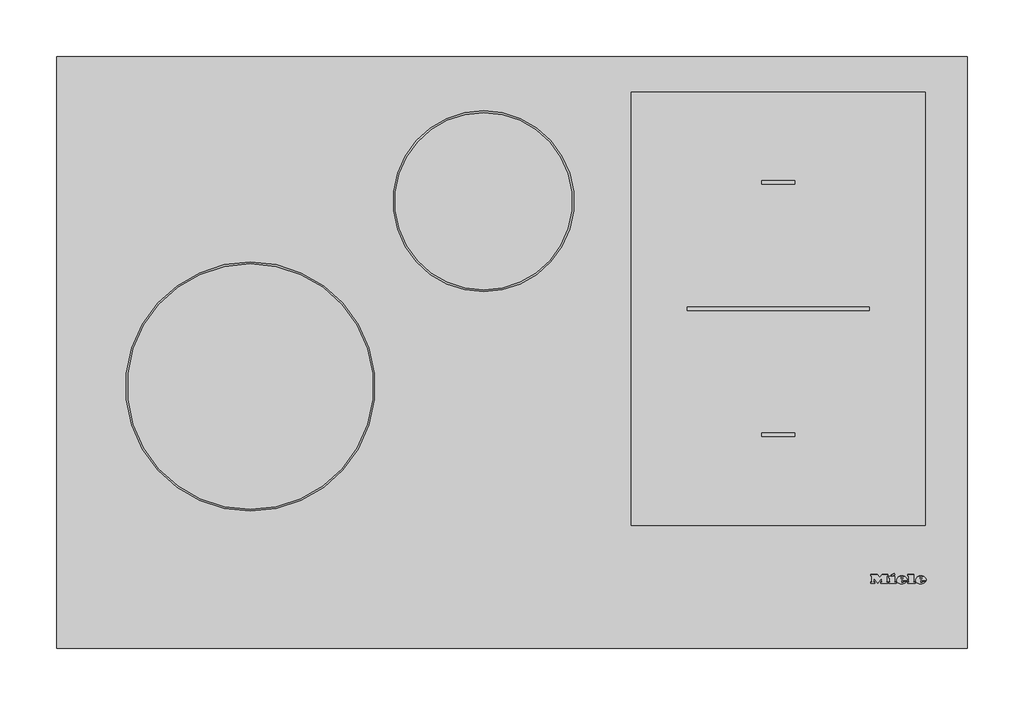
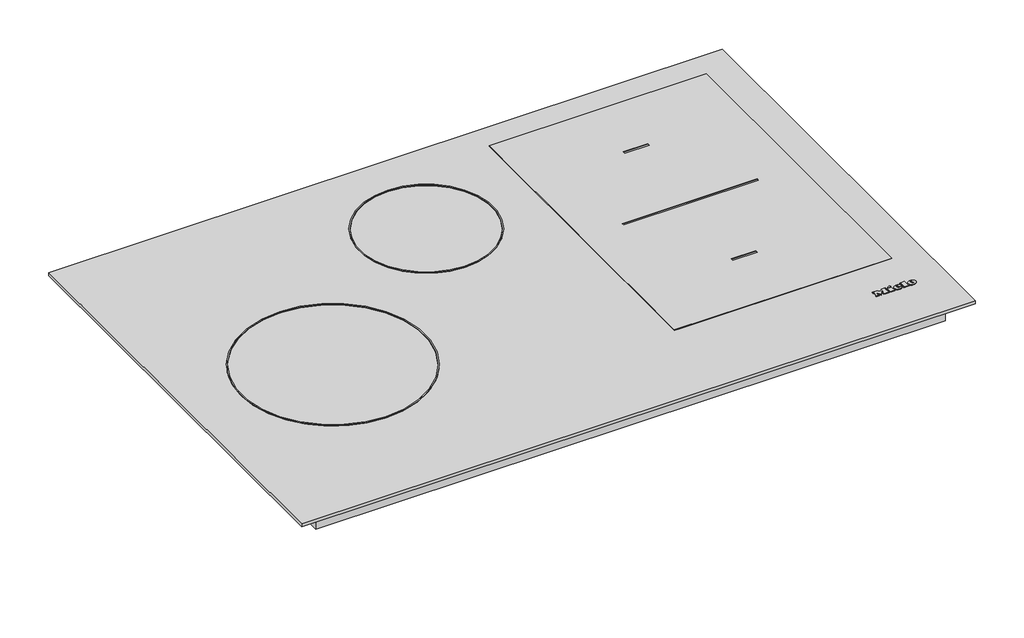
# Not in any storey: 1 proxy.
"""IFC4 building model written with IfcOpenShell, lengths in millimetres."""

import ifcopenshell
import ifcopenshell.guid

model = None  # the IFC model being written
_history = None  # IfcOwnerHistory: only IFC2X3 demands one
_inside = {}  # id of a spatial element -> (the spatial element, [elements in it])
_under = {}  # id of a project, library or spatial element -> (it, [spatial elements below it])
_declared = {}  # id of a project -> (the project, [libraries it declares])
_typed = {}  # id of a type object -> (the type object, [elements of that type])
_made_of = {}  # id of a material, layer set ... -> (it, [elements and type objects made of it])


def new_model(schema):
    """Start an empty IFC model of exactly this schema.

    Asked for "IFC4X3", IfcOpenShell would pick the latest addendum, in which some entities
    have other attributes; the version numbers below select the first issue.
    IFC2X3 requires an IfcOwnerHistory on every rooted entity: one is made here for all.
    """
    global model, _history
    if schema == "IFC4X3":
        model = ifcopenshell.file(schema_version=(4, 3, 0, 0))
    else:
        model = ifcopenshell.file(schema=schema)
    _inside.clear()
    _under.clear()
    _declared.clear()
    _typed.clear()
    _made_of.clear()
    _history = None
    if model.schema == "IFC2X3":
        org = make("IfcOrganization", Name="unknown")
        user = make(
            "IfcPersonAndOrganization",
            ThePerson=make("IfcPerson", FamilyName="unknown"),
            TheOrganization=org,
        )
        app = make(
            "IfcApplication",
            ApplicationDeveloper=org,
            Version="unknown",
            ApplicationFullName="unknown",
            ApplicationIdentifier="unknown",
        )
        _history = make(
            "IfcOwnerHistory",
            OwningUser=user,
            OwningApplication=app,
            ChangeAction="ADDED",
            CreationDate=0,
        )
    return model


def make(cls, **values):
    """One entity of the class cls with the attributes given. An attribute that is None is left unset."""
    return model.create_entity(
        cls, **{name: value for name, value in values.items() if value is not None}
    )


def rooted(cls, **values):
    """An entity with a GlobalId (a new one), such as an element, a storey or a relation."""
    return make(cls, GlobalId=ifcopenshell.guid.new(), OwnerHistory=_history, **values)


def si_unit(unit_type, name, prefix=None):
    """IfcSIUnit, for example si_unit("LENGTHUNIT", "METRE", prefix="MILLI")."""
    return make("IfcSIUnit", UnitType=unit_type, Prefix=prefix, Name=name)


def assignment(units):
    """IfcUnitAssignment: the units of a project."""
    return None if units is None else make("IfcUnitAssignment", Units=units)


def point(xyz):
    """IfcCartesianPoint."""
    return None if xyz is None else make("IfcCartesianPoint", Coordinates=xyz)


def direction(xyz):
    """IfcDirection."""
    return None if xyz is None else make("IfcDirection", DirectionRatios=xyz)


def frame(location, z_axis=None, x_axis=None):
    """IfcAxis2Placement3D, a coordinate frame: its origin and axes. An axis left out is left unset."""
    return make(
        "IfcAxis2Placement3D",
        Location=point(location),
        Axis=direction(z_axis),
        RefDirection=direction(x_axis),
    )


def frame_2d(location, x_axis=None):
    """IfcAxis2Placement2D, a coordinate frame in the plane: its origin and x axis."""
    return make(
        "IfcAxis2Placement2D", Location=point(location), RefDirection=direction(x_axis)
    )


def origin():
    """The frame at (0, 0, 0) with its axes left unset."""
    return frame((0.0, 0.0, 0.0))


def origin_with_axes():
    """The frame at (0, 0, 0) with the z axis (0, 0, 1) and the x axis (1, 0, 0) written out."""
    return frame((0.0, 0.0, 0.0), z_axis=(0.0, 0.0, 1.0), x_axis=(1.0, 0.0, 0.0))


def place(relative_to, where):
    """IfcLocalPlacement: puts the frame where relative to a parent placement (None: the world)."""
    return make(
        "IfcLocalPlacement", PlacementRelTo=relative_to, RelativePlacement=where
    )


def context(
    kind, dimensions, precision=None, world=None, true_north=None, identifier=None
):
    """IfcGeometricRepresentationContext, for example the 3D "Model" context."""
    return make(
        "IfcGeometricRepresentationContext",
        ContextIdentifier=identifier,
        ContextType=kind,
        CoordinateSpaceDimension=dimensions,
        Precision=precision,
        WorldCoordinateSystem=world,
        TrueNorth=true_north,
    )


def project(units=None, contexts=None):
    """IfcProject with its units and contexts."""
    return rooted(
        "IfcProject",
        Name="project",
        RepresentationContexts=contexts,
        UnitsInContext=assignment(units),
    )


def spatial(cls, under=None, at=None, **own):
    """A site, building, storey or space (cls), placed at a placement, below another one or the project."""
    s = rooted(cls, ObjectPlacement=at, **own)
    if under is not None:
        _under.setdefault(under.id(), (under, []))[1].append(s)
    return s


def polyline(points):
    """IfcPolyline through the points."""
    return make("IfcPolyline", Points=[point(p) for p in points])


def circle_curve(where, radius):
    """IfcCircle in the frame where."""
    return make("IfcCircle", Position=where, Radius=radius)


def ellipse_curve(where, semi_axis1, semi_axis2):
    """IfcEllipse in the frame where."""
    return make(
        "IfcEllipse", Position=where, SemiAxis1=semi_axis1, SemiAxis2=semi_axis2
    )


def trimmed(basis, trim1, trim2, sense, master):
    """IfcTrimmedCurve: the piece of a basis curve between two trims."""
    return make(
        "IfcTrimmedCurve",
        BasisCurve=basis,
        Trim1=trim1,
        Trim2=trim2,
        SenseAgreement=sense,
        MasterRepresentation=master,
    )


def segment(curve, same_sense, transition):
    """IfcCompositeCurveSegment."""
    return make(
        "IfcCompositeCurveSegment",
        Transition=transition,
        SameSense=same_sense,
        ParentCurve=curve,
    )


def composite_curve(segments, self_intersect=None):
    """IfcCompositeCurve: segments joined end to end."""
    return make("IfcCompositeCurve", Segments=segments, SelfIntersect=self_intersect)


def outline(outer, holes=None, kind="AREA"):
    """IfcArbitraryClosedProfileDef: a profile drawn as a closed curve; with holes, ...WithVoids."""
    if holes is None:
        return make("IfcArbitraryClosedProfileDef", ProfileType=kind, OuterCurve=outer)
    return make(
        "IfcArbitraryProfileDefWithVoids",
        ProfileType=kind,
        OuterCurve=outer,
        InnerCurves=holes,
    )


def extrude(swept, where, along, depth):
    """IfcExtrudedAreaSolid: the profile swept, set in the frame where, extruded along a direction by depth."""
    return make(
        "IfcExtrudedAreaSolid",
        SweptArea=swept,
        Position=where,
        ExtrudedDirection=direction(along),
        Depth=depth,
    )


def shape(context_of_items, identifier, shape_type, items):
    """IfcShapeRepresentation: the items that make up one representation, for example the "Body"."""
    return make(
        "IfcShapeRepresentation",
        ContextOfItems=context_of_items,
        RepresentationIdentifier=identifier,
        RepresentationType=shape_type,
        Items=items,
    )


def source(mapping_origin, context_of_items, identifier, shape_type, items):
    """IfcRepresentationMap: a shape defined once, which mapped items show again and again."""
    return make(
        "IfcRepresentationMap",
        MappingOrigin=mapping_origin,
        MappedRepresentation=shape(context_of_items, identifier, shape_type, items),
    )


def transform(
    local_origin,
    x_axis=None,
    y_axis=None,
    z_axis=None,
    scale=None,
    scale2=None,
    scale3=None,
    uniform=True,
):
    """IfcCartesianTransformationOperator3D, or its non-uniform kind. x_axis, y_axis, z_axis: its Axis1, 2, 3."""
    if uniform:
        return make(
            "IfcCartesianTransformationOperator3D",
            Axis1=direction(x_axis),
            Axis2=direction(y_axis),
            LocalOrigin=point(local_origin),
            Scale=scale,
            Axis3=direction(z_axis),
        )
    return make(
        "IfcCartesianTransformationOperator3DnonUniform",
        Axis1=direction(x_axis),
        Axis2=direction(y_axis),
        LocalOrigin=point(local_origin),
        Scale=scale,
        Axis3=direction(z_axis),
        Scale2=scale2,
        Scale3=scale3,
    )


def mapped(mapping_source, mapping_target):
    """IfcMappedItem: shows the shape of a source again, moved by a transform."""
    return make(
        "IfcMappedItem", MappingSource=mapping_source, MappingTarget=mapping_target
    )


def made_of(thing, what):
    """Note that an element or type object is made of a material, layer set ...; save() writes the relation."""
    if what is not None:
        _made_of.setdefault(what.id(), (what, []))[1].append(thing)
    return thing


def element(
    cls,
    number,
    at=None,
    inside=None,
    cuts=None,
    type_object=None,
    material=None,
    context=None,
    identifier="Body",
    shape_type=None,
    held_by="IfcProductDefinitionShape",
    body=None,
    shapes=None,
    **own,
):
    """One element of the class cls, such as IfcWall. Its Tag is "e" and its number.

    at: its placement. inside: the storey or other place that contains it. cuts: it is an
    opening in that element (IfcRelVoidsElement). A single representation is given by context,
    identifier, shape_type and body (its items); several are given by shapes. held_by: the class
    of the entity that holds the representations. save() writes the other relations.
    """
    e = rooted(cls, Tag="e%d" % number, ObjectPlacement=at, **own)
    if body is not None:
        shapes = [shape(context, identifier, shape_type, body)]
    if shapes is not None:
        e.Representation = make(held_by, Representations=shapes)
    if inside is not None:
        _inside.setdefault(inside.id(), (inside, []))[1].append(e)
    if cuts is not None:
        rooted(
            "IfcRelVoidsElement", RelatingBuildingElement=cuts, RelatedOpeningElement=e
        )
    if type_object is not None:
        _typed.setdefault(type_object.id(), (type_object, []))[1].append(e)
    return made_of(e, material)


def aggregate(whole, parts):
    """IfcRelAggregates: a whole, such as a stair, and the parts it consists of."""
    return rooted("IfcRelAggregates", RelatingObject=whole, RelatedObjects=parts)


def save(model, path):
    """Write the relations noted so far, then the file.

    IfcRelAggregates (storeys below a building ...), IfcRelContainedInSpatialStructure (elements
    in a storey), IfcRelDefinesByType, IfcRelAssociatesMaterial and IfcRelDeclares: one each for
    every whole, place, type object, material and project.
    """
    for whole, parts in _under.values():
        aggregate(whole, parts)
    for where, things in _inside.values():
        rooted(
            "IfcRelContainedInSpatialStructure",
            RelatedElements=things,
            RelatingStructure=where,
        )
    for kind, things in _typed.values():
        rooted("IfcRelDefinesByType", RelatedObjects=things, RelatingType=kind)
    for what, things in _made_of.values():
        rooted("IfcRelAssociatesMaterial", RelatedObjects=things, RelatingMaterial=what)
    for by, libraries in _declared.values():
        rooted("IfcRelDeclares", RelatingContext=by, RelatedDefinitions=libraries)
    model.write(path)


def plane_surface(at):
    """IfcPlane: the flat surface through the origin of the frame at, square to its z axis."""
    return make("IfcPlane", Position=at)


def cylinder_surface(at, radius):
    """IfcCylindricalSurface: all points at the distance radius from the z axis of the frame at."""
    return make("IfcCylindricalSurface", Position=at, Radius=radius)


def revolved_surface(curve, axis_point, axis_direction):
    """IfcSurfaceOfRevolution: the curve turned about the line through axis_point along axis_direction."""
    return make(
        "IfcSurfaceOfRevolution",
        SweptCurve=make("IfcArbitraryOpenProfileDef", ProfileType="CURVE", Curve=curve),
        AxisPosition=make("IfcAxis1Placement", Location=point(axis_point), Axis=direction(axis_direction)),
    )


def extruded_surface(curve, direction_of_extrusion, depth):
    """IfcSurfaceOfLinearExtrusion: the curve pushed along a direction by depth."""
    return make(
        "IfcSurfaceOfLinearExtrusion",
        SweptCurve=make("IfcArbitraryOpenProfileDef", ProfileType="CURVE", Curve=curve),
        ExtrudedDirection=direction(direction_of_extrusion),
        Depth=depth,
    )


def advanced_brep(points, edges, surfaces, faces):
    """IfcAdvancedBrep: a solid bounded by faces that lie on surfaces and meet in shared edges.

    An edge is (start, end): straight between two places in points (the first is 0);
    or (start, end, curve); or (start, end, curve, False) where it runs against its curve.
    A face is (place in surfaces, loops), or (place, loops, False) where it looks against
    its surface's normal. A loop lists edges by number (the first is 1), with a minus sign
    where the edge is run from its end to its start. The first loop is the outer one.
    """
    corners = [point(p) for p in points]
    vertices = [make("IfcVertexPoint", VertexGeometry=c) for c in corners]
    made = []
    for start, end, *more in edges:
        made.append(
            make(
                "IfcEdgeCurve",
                EdgeStart=vertices[start],
                EdgeEnd=vertices[end],
                EdgeGeometry=more[0] if more else make("IfcPolyline", Points=[corners[start], corners[end]]),
                SameSense=more[1] if len(more) > 1 else True,
            )
        )
    hull = []
    for where, loops, *sense in faces:
        bounds = []
        for j, loop in enumerate(loops):
            ring = [make("IfcOrientedEdge", EdgeElement=made[abs(k) - 1], Orientation=k > 0) for k in loop]
            bounds.append(
                make(
                    "IfcFaceOuterBound" if j == 0 else "IfcFaceBound",
                    Bound=make("IfcEdgeLoop", EdgeList=ring),
                    Orientation=True,
                )
            )
        hull.append(make("IfcAdvancedFace", Bounds=bounds, FaceSurface=surfaces[where], SameSense=sense[0] if sense else True))
    return make("IfcAdvancedBrep", Outer=make("IfcClosedShell", CfsFaces=hull))


def specialty_equipment_7e4819c2(model_context):
    return source(origin(), model_context, "Body", "SolidModel", [
        advanced_brep(
        [(358.648, 58.8948833, 4.9922537), (358.648, 59.7028828, 4.9931551), (364.0, 59.7028828, 4.9931551), (354.688, 59.7028828, 4.9931551), (356.888, 56.9988845, 4.9901386), (363.864, 58.8948833, 4.9922537), (361.448, 58.8948833, 4.9922537), (359.544, 57.9988838, 4.9912542), (358.648, 60.7268821, 4.9942974), (358.648, 61.5988816, 4.9952701), (360.016, 61.5988816, 4.9952701), (360.016, 60.7268821, 4.9942974), (358.648, 58.8959988, 3.9922543), (359.544, 57.9999994, 3.9912548), (361.448, 58.8959988, 3.9922543), (363.864, 58.8959988, 3.9922543), (356.888, 57.0, 3.9901393), (354.688, 59.7039983, 3.9931557), (364.0, 59.7039983, 3.9931557), (358.648, 59.7039983, 3.9931557), (358.648, 60.7279977, 3.994298), (360.016, 60.7279977, 3.994298), (360.016, 61.5999971, 3.9952707), (358.648, 61.5999971, 3.9952707)],
        [
            (0, 1),
            (1, 2),
            (2, 3, ellipse_curve(frame((359.344, 59.7028828, 4.9931551), z_axis=(0.0, -0.0011155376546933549, 0.9999993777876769), x_axis=(-1.0, 0.0, 0.0)), 4.656, 3.848)),
            (3, 4, circle_curve(frame((357.7840436, 59.9748826, 4.9934585), z_axis=(0.0, -0.0011155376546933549, 0.9999993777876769), x_axis=(0.0, -0.9999993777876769, -0.0011155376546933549)), 3.1079688)),
            (4, 5, circle_curve(frame((359.2507936, 62.0868813, 4.9958145), z_axis=(0.0, -0.0011155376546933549, 0.9999993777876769), x_axis=(0.0, -0.9999993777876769, -0.0011155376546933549)), 5.6098607)),
            (5, 6),
            (6, 7, circle_curve(frame((359.9350588, 59.6388828, 4.9930837), z_axis=(0.0, 0.0011155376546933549, -0.9999993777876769), x_axis=(0.0, -0.9999993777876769, -0.0011155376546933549)), 1.6859795)),
            (7, 0, circle_curve(frame((359.544, 58.8948833, 4.9922537), z_axis=(0.0, 0.0011155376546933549, -0.9999993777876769), x_axis=(0.0, -0.9999993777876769, -0.0011155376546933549)), 0.896)),
            (8, 9),
            (9, 10, circle_curve(frame((359.332, 61.5988816, 4.9952701), z_axis=(0.0, 0.0011155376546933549, -0.9999993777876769), x_axis=(0.0, -0.9999993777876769, -0.0011155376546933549)), 0.684)),
            (10, 11),
            (11, 8),
            (12, 13, circle_curve(frame((359.544, 58.8959988, 3.9922543), z_axis=(0.0, -0.0011155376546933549, 0.9999993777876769), x_axis=(0.0, -0.9999993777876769, -0.0011155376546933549)), 0.896)),
            (13, 14, circle_curve(frame((359.9350588, 59.6399984, 3.9930843), z_axis=(0.0, -0.0011155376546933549, 0.9999993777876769), x_axis=(0.0, -0.9999993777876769, -0.0011155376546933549)), 1.6859795)),
            (14, 15),
            (15, 16, circle_curve(frame((359.2507936, 62.0879968, 3.9958151), z_axis=(0.0, 0.0011155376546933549, -0.9999993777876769), x_axis=(0.0, -0.9999993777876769, -0.0011155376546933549)), 5.6098607)),
            (16, 17, circle_curve(frame((357.7840436, 59.9759981, 3.9934591), z_axis=(0.0, 0.0011155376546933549, -0.9999993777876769), x_axis=(0.0, -0.9999993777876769, -0.0011155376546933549)), 3.1079688)),
            (17, 18, ellipse_curve(frame((359.344, 59.7039983, 3.9931557), z_axis=(0.0, 0.0011155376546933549, -0.9999993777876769), x_axis=(-1.0, 0.0, 0.0)), 4.656, 3.848)),
            (18, 19),
            (19, 12),
            (20, 21),
            (21, 22),
            (22, 23, circle_curve(frame((359.332, 61.5999971, 3.9952707), z_axis=(0.0, -0.0011155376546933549, 0.9999993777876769), x_axis=(0.0, -0.9999993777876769, -0.0011155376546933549)), 0.684)),
            (23, 20),
            (0, 12),
            (19, 1),
            (18, 2),
            (5, 15),
            (14, 6),
            (17, 3),
            (13, 7),
            (16, 4),
            (8, 20),
            (23, 9),
            (22, 10),
            (21, 11),
        ],
        [
            plane_surface(frame((358.648, 59.7028828, 4.9931551), z_axis=(0.0, -0.0011155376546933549, 0.9999993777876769), x_axis=(0.0, 0.9999993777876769, 0.0011155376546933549))),
            plane_surface(frame((358.648, 59.7039983, 3.9931557), z_axis=(0.0, 0.0011155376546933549, -0.9999993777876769), x_axis=(0.0, -0.9999993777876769, -0.0011155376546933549))),
            plane_surface(frame((358.648, 58.8948833, 4.9922537), z_axis=(1.0000000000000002, 0.0, 0.0), x_axis=(0.0, 0.001115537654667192, -0.999999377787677))),
            plane_surface(frame((358.648, 59.7028828, 4.9931551), z_axis=(0.0, -0.999999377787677, -0.001115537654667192), x_axis=(0.0, 0.001115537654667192, -0.999999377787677))),
            plane_surface(frame((363.864, 58.8948833, 4.9922537), z_axis=(0.0, 0.999999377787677, 0.001115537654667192), x_axis=(0.0, 0.001115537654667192, -0.999999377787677))),
            extruded_surface(trimmed(ellipse_curve(frame((359.344, 59.7051139, 2.9931563), z_axis=(0.0, -0.0011155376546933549, 0.9999993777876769), x_axis=(-1.0, 0.0, 0.0)), 4.656, 3.848), [point((364.0, 59.7051139, 2.9931563))], [point((354.688, 59.7051139, 2.9931563))], True, "CARTESIAN"), (0.0, -0.001115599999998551, 0.9999994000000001), 1.00000002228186),
            revolved_surface(polyline([(359.9350588, 57.954019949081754, 3.991203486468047), (359.9350588, 57.95290441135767, 4.99120292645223)]), (359.9350588, 59.6399984, 3.9930843), (0.0, 0.0011155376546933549, -0.9999993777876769)),
            revolved_surface(polyline([(359.544, 57.99999935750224, 3.9912547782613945), (359.544, 57.99888381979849, 4.991254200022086)]), (359.544, 58.8959988, 3.9922543), (0.0, 0.0011155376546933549, -0.9999993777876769)),
            cylinder_surface(frame((357.7840436, 59.9759981, 3.9934591), z_axis=(0.0, -0.0011155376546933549, 0.9999993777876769), x_axis=(0.0, -0.9999993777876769, -0.0011155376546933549)), 3.1079688),
            cylinder_surface(frame((359.2507936, 62.0879968, 3.9958151), z_axis=(0.0, -0.0011155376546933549, 0.9999993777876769), x_axis=(0.0, -0.9999993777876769, -0.0011155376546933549)), 5.6098607),
            plane_surface(frame((358.648, 60.7268821, 4.9942974), z_axis=(1.0000000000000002, 0.0, 0.0), x_axis=(0.0, 0.001115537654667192, -0.999999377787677))),
            revolved_surface(polyline([(359.332, 60.915997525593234, 3.9945076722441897), (359.332, 60.91488198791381, 4.994507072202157)]), (359.332, 61.5999971, 3.9952707), (0.0, 0.0011155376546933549, -0.9999993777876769)),
            plane_surface(frame((360.016, 61.5988816, 4.9952701), z_axis=(-1.0000000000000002, 0.0, 0.0), x_axis=(0.0, 0.001115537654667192, -0.999999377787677))),
            plane_surface(frame((360.016, 60.7268821, 4.9942974), z_axis=(0.0, 0.999999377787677, 0.001115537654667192), x_axis=(0.0, 0.001115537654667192, -0.999999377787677))),
        ],
        [
            (0, [[1, 2, 3, 4, 5, 6, 7, 8], [9, 10, 11, 12]]),
            (1, [[13, 14, 15, 16, 17, 18, 19, 20], [21, 22, 23, 24]]),
            (2, [[-1, 25, -20, 26]]),
            (3, [[-2, -26, -19, 27]]),
            (4, [[-6, 28, -15, 29]]),
            (5, [[-3, -27, -18, 30]]),
            (6, [[-7, -29, -14, 31]]),
            (7, [[-8, -31, -13, -25]]),
            (8, [[-4, -30, -17, 32]]),
            (9, [[-5, -32, -16, -28]]),
            (10, [[-9, 33, -24, 34]]),
            (11, [[-10, -34, -23, 35]]),
            (12, [[-11, -35, -22, 36]]),
            (13, [[-12, -36, -21, -33]]),
        ],
    ),
        advanced_brep(
        [(341.952, 58.8948833, 4.9922537), (341.952, 59.7028828, 4.9931551), (347.304, 59.7028828, 4.9931551), (337.992, 59.7028828, 4.9931551), (340.192, 56.9988845, 4.9901386), (347.168, 58.8948833, 4.9922537), (344.752, 58.8948833, 4.9922537), (342.848, 57.9988838, 4.9912542), (341.952, 60.7268821, 4.9942974), (341.952, 61.5988816, 4.9952701), (343.32, 61.5988816, 4.9952701), (343.32, 60.7268821, 4.9942974), (341.952, 58.8959988, 3.9922543), (342.848, 57.9999994, 3.9912548), (344.752, 58.8959988, 3.9922543), (347.168, 58.8959988, 3.9922543), (340.192, 57.0, 3.9901393), (337.992, 59.7039983, 3.9931557), (347.304, 59.7039983, 3.9931557), (341.952, 59.7039983, 3.9931557), (341.952, 60.7279977, 3.994298), (343.32, 60.7279977, 3.994298), (343.32, 61.5999971, 3.9952707), (341.952, 61.5999971, 3.9952707)],
        [
            (0, 1),
            (1, 2),
            (2, 3, ellipse_curve(frame((342.648, 59.7028828, 4.9931551), z_axis=(0.0, -0.0011155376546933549, 0.9999993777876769), x_axis=(-1.0, 0.0, 0.0)), 4.656, 3.848)),
            (3, 4, circle_curve(frame((341.0880436, 59.9748826, 4.9934585), z_axis=(0.0, -0.0011155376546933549, 0.9999993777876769), x_axis=(0.0, -0.9999993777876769, -0.0011155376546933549)), 3.1079688)),
            (4, 5, circle_curve(frame((342.5547936, 62.0868813, 4.9958145), z_axis=(0.0, -0.0011155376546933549, 0.9999993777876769), x_axis=(0.0, -0.9999993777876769, -0.0011155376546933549)), 5.6098607)),
            (5, 6),
            (6, 7, circle_curve(frame((343.2390588, 59.6388828, 4.9930837), z_axis=(0.0, 0.0011155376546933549, -0.9999993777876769), x_axis=(0.0, -0.9999993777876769, -0.0011155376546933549)), 1.6859795)),
            (7, 0, circle_curve(frame((342.848, 58.8948833, 4.9922537), z_axis=(0.0, 0.0011155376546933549, -0.9999993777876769), x_axis=(0.0, -0.9999993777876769, -0.0011155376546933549)), 0.896)),
            (8, 9),
            (9, 10, circle_curve(frame((342.636, 61.5988816, 4.9952701), z_axis=(0.0, 0.0011155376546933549, -0.9999993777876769), x_axis=(0.0, -0.9999993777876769, -0.0011155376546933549)), 0.684)),
            (10, 11),
            (11, 8),
            (12, 13, circle_curve(frame((342.848, 58.8959988, 3.9922543), z_axis=(0.0, -0.0011155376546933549, 0.9999993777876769), x_axis=(0.0, -0.9999993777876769, -0.0011155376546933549)), 0.896)),
            (13, 14, circle_curve(frame((343.2390588, 59.6399984, 3.9930843), z_axis=(0.0, -0.0011155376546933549, 0.9999993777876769), x_axis=(0.0, -0.9999993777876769, -0.0011155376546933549)), 1.6859795)),
            (14, 15),
            (15, 16, circle_curve(frame((342.5547936, 62.0879968, 3.9958151), z_axis=(0.0, 0.0011155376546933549, -0.9999993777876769), x_axis=(0.0, -0.9999993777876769, -0.0011155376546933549)), 5.6098607)),
            (16, 17, circle_curve(frame((341.0880436, 59.9759981, 3.9934591), z_axis=(0.0, 0.0011155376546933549, -0.9999993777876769), x_axis=(0.0, -0.9999993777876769, -0.0011155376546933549)), 3.1079688)),
            (17, 18, ellipse_curve(frame((342.648, 59.7039983, 3.9931557), z_axis=(0.0, 0.0011155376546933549, -0.9999993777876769), x_axis=(-1.0, 0.0, 0.0)), 4.656, 3.848)),
            (18, 19),
            (19, 12),
            (20, 21),
            (21, 22),
            (22, 23, circle_curve(frame((342.636, 61.5999971, 3.9952707), z_axis=(0.0, -0.0011155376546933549, 0.9999993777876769), x_axis=(0.0, -0.9999993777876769, -0.0011155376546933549)), 0.684)),
            (23, 20),
            (0, 12),
            (19, 1),
            (18, 2),
            (5, 15),
            (14, 6),
            (17, 3),
            (13, 7),
            (16, 4),
            (8, 20),
            (23, 9),
            (22, 10),
            (21, 11),
        ],
        [
            plane_surface(frame((341.952, 59.7028828, 4.9931551), z_axis=(0.0, -0.0011155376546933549, 0.9999993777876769), x_axis=(0.0, 0.9999993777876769, 0.0011155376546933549))),
            plane_surface(frame((341.952, 59.7039983, 3.9931557), z_axis=(0.0, 0.0011155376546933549, -0.9999993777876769), x_axis=(0.0, -0.9999993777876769, -0.0011155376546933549))),
            plane_surface(frame((341.952, 58.8948833, 4.9922537), z_axis=(1.0000000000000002, 0.0, 0.0), x_axis=(0.0, 0.001115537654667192, -0.999999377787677))),
            plane_surface(frame((341.952, 59.7028828, 4.9931551), z_axis=(0.0, -0.999999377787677, -0.001115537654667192), x_axis=(0.0, 0.001115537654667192, -0.999999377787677))),
            plane_surface(frame((347.168, 58.8948833, 4.9922537), z_axis=(0.0, 0.999999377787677, 0.001115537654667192), x_axis=(0.0, 0.001115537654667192, -0.999999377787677))),
            extruded_surface(trimmed(ellipse_curve(frame((342.648, 59.7051139, 2.9931563), z_axis=(0.0, -0.0011155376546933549, 0.9999993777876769), x_axis=(-1.0, 0.0, 0.0)), 4.656, 3.848), [point((347.304, 59.7051139, 2.9931563))], [point((337.992, 59.7051139, 2.9931563))], True, "CARTESIAN"), (0.0, -0.001115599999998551, 0.9999994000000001), 1.00000002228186),
            revolved_surface(polyline([(343.2390588, 57.954019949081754, 3.991203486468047), (343.2390588, 57.95290441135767, 4.99120292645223)]), (343.2390588, 59.6399984, 3.9930843), (0.0, 0.0011155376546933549, -0.9999993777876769)),
            revolved_surface(polyline([(342.848, 57.99999935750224, 3.9912547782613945), (342.848, 57.99888381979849, 4.991254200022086)]), (342.848, 58.8959988, 3.9922543), (0.0, 0.0011155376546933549, -0.9999993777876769)),
            cylinder_surface(frame((341.0880436, 59.9759981, 3.9934591), z_axis=(0.0, -0.0011155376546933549, 0.9999993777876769), x_axis=(0.0, -0.9999993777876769, -0.0011155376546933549)), 3.1079688),
            cylinder_surface(frame((342.5547936, 62.0879968, 3.9958151), z_axis=(0.0, -0.0011155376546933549, 0.9999993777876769), x_axis=(0.0, -0.9999993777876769, -0.0011155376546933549)), 5.6098607),
            plane_surface(frame((341.952, 60.7268821, 4.9942974), z_axis=(1.0000000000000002, 0.0, 0.0), x_axis=(0.0, 0.001115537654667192, -0.999999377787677))),
            revolved_surface(polyline([(342.636, 60.915997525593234, 3.9945076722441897), (342.636, 60.91488198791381, 4.994507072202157)]), (342.636, 61.5999971, 3.9952707), (0.0, 0.0011155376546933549, -0.9999993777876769)),
            plane_surface(frame((343.32, 61.5988816, 4.9952701), z_axis=(-1.0000000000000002, 0.0, 0.0), x_axis=(0.0, 0.001115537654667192, -0.999999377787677))),
            plane_surface(frame((343.32, 60.7268821, 4.9942974), z_axis=(0.0, 0.999999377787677, 0.001115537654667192), x_axis=(0.0, 0.001115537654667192, -0.999999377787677))),
        ],
        [
            (0, [[1, 2, 3, 4, 5, 6, 7, 8], [9, 10, 11, 12]]),
            (1, [[13, 14, 15, 16, 17, 18, 19, 20], [21, 22, 23, 24]]),
            (2, [[-1, 25, -20, 26]]),
            (3, [[-2, -26, -19, 27]]),
            (4, [[-6, 28, -15, 29]]),
            (5, [[-3, -27, -18, 30]]),
            (6, [[-7, -29, -14, 31]]),
            (7, [[-8, -31, -13, -25]]),
            (8, [[-4, -30, -17, 32]]),
            (9, [[-5, -32, -16, -28]]),
            (10, [[-9, 33, -24, 34]]),
            (11, [[-10, -34, -23, 35]]),
            (12, [[-11, -35, -22, 36]]),
            (13, [[-12, -36, -21, -33]]),
        ],
    ),
        extrude(outline(polyline([(0.0, 0.0), (-0.0109086, -2.9993294), (-1.4390415, -2.9920868), (-1.4315307, 0.0), (0.0, 0.0)])), frame((333.208, 64.5279953, 3.998537), z_axis=(0.0, -0.001115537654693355, 0.999999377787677), x_axis=(-0.4247202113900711, 0.9053240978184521, 0.0010099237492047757)), (0.0, 0.0, 1.0), 1.0),
        extrude(outline(polyline([(-0.4933908, 2.4141097), (-2.7800844, -2.4601583), (-7.0459741, -0.4588767), (-7.4401145, -1.299018), (-8.6568709, -0.728194), (-5.9760369, 4.9862153), (-4.7592805, 4.4153913), (-5.1636142, 3.5535222), (-2.1941493, 2.1604399), (-1.7898157, 3.022309), (-0.4933908, 2.4141097)])), frame((333.208, 64.5279953, 3.998537), z_axis=(0.0, -0.001115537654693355, 0.999999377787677), x_axis=(-0.4247202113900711, 0.9053240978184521, 0.0010099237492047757)), (0.0, 0.0, 1.0), 1.0),
        extrude(outline(polyline([(0.0, 0.0), (0.0, -1.304), (-5.504, -1.304), (-5.504, 5.3519999), (-6.488, 5.3519999), (-6.488, 6.696), (0.0, 6.696), (0.0, 5.3519999), (-0.96, 5.3519999), (-0.96, 0.0), (0.0, 0.0)])), frame((347.752, 63.6959958, 3.9976089), z_axis=(0.0, -0.0011155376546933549, 0.9999993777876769), x_axis=(-1.0, 0.0, 0.0)), (0.0, 0.0, 1.0), 1.0),
        extrude(outline(polyline([(0.0, 0.0), (0.0, -1.304), (-5.576, -1.304), (-7.92, 1.696), (-10.256, -1.304), (-15.128, -1.304), (-15.128, 0.0), (-14.112, 0.0), (-14.112, 5.3519999), (-15.128, 5.3519999), (-15.128, 6.696), (-8.744, 6.696), (-8.744, 5.3519999), (-9.728, 5.3519999), (-9.728, 1.8807777), (-6.136, 6.696), (-2.56, 1.9488752), (-2.56, 5.3519999), (-3.52, 5.3519999), (-3.52, 6.696), (0.0, 6.696), (0.0, 5.3519999), (-0.968, 5.3519999), (-0.968, 0.0), (0.0, 0.0)])), frame((315.288, 63.6959958, 3.9976089), z_axis=(0.0, -0.0011155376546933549, 0.9999993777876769), x_axis=(-1.0, 0.0, 0.0)), (0.0, 0.0, 1.0), 1.0),
        extrude(outline(polyline([(182.3772603, 428.0), (175.0, 428.0), (175.0, 429.2557039), (181.1215564, 429.2557039), (181.1215564, 432.5519266), (175.470889, 432.5519266), (175.470889, 433.8076304), (181.1215564, 433.8076304), (181.1215564, 436.7899271), (175.156963, 436.7899271), (175.156963, 438.045631), (182.3772603, 438.045631), (182.3772603, 428.0)])), frame((0.0, 0.0, -78.0), z_axis=(0.0, 0.0, 1.0), x_axis=(1.0, 0.0, 0.0)), (0.0, 0.0, 1.0), 1.0),
        extrude(outline(polyline([(173.1164442, 428.0), (166.8379248, 428.0), (166.8379248, 429.2557039), (171.8607403, 429.2557039), (171.8607403, 438.045631), (173.1164442, 438.045631), (173.1164442, 428.0)])), frame((0.0, 0.0, -78.0), z_axis=(0.0, 0.0, 1.0), x_axis=(1.0, 0.0, 0.0)), (0.0, 0.0, 1.0), 1.0),
        extrude(outline(polyline([(400.0, 520.0), (400.0, 0.0), (-400.0, 0.0), (-400.0, 520.0), (400.0, 520.0)])), origin_with_axes(), (0.0, 0.0, 1.0), 4.0),
        extrude(outline(polyline([(373.5, 503.5), (373.5, 16.5), (-373.5, 16.5), (-373.5, 503.5), (373.5, 503.5)])), frame((0.0, 0.0, -22.0), z_axis=(0.0, 0.0, 1.0), x_axis=(1.0, 0.0, 0.0)), (0.0, 0.0, 1.0), 22.0),
        extrude(outline(composite_curve([segment(trimmed(circle_curve(frame_2d((-25.0, 393.0)), 79.5), [point((-25.0, 472.5))], [point((-25.0, 313.5))], False, "CARTESIAN"), True, "CONTINUOUS"), segment(trimmed(circle_curve(frame_2d((-25.0, 393.0)), 79.5), [point((-25.0, 313.5))], [point((-25.0, 472.5))], False, "CARTESIAN"), True, "CONTINUOUS")], self_intersect=False), holes=[composite_curve([segment(trimmed(circle_curve(frame_2d((-25.0, 393.0)), 78.0), [point((-25.0, 471.0))], [point((-25.0, 315.0))], True, "CARTESIAN"), True, "CONTINUOUS"), segment(trimmed(circle_curve(frame_2d((-25.0, 393.0)), 78.0), [point((-25.0, 315.0))], [point((-25.0, 471.0))], True, "CARTESIAN"), True, "CONTINUOUS")], self_intersect=False)]), frame((0.0, 0.0, 4.0), z_axis=(0.0, 0.0, 1.0), x_axis=(1.0, 0.0, 0.0)), (0.0, 0.0, 1.0), 1.0),
        extrude(outline(composite_curve([segment(trimmed(circle_curve(frame_2d((-230.0, 230.0)), 109.5), [point((-230.0, 339.5))], [point((-230.0, 120.5))], False, "CARTESIAN"), True, "CONTINUOUS"), segment(trimmed(circle_curve(frame_2d((-230.0, 230.0)), 109.5), [point((-230.0, 120.5))], [point((-230.0, 339.5))], False, "CARTESIAN"), True, "CONTINUOUS")], self_intersect=False), holes=[composite_curve([segment(trimmed(circle_curve(frame_2d((-230.0, 230.0)), 108.0), [point((-230.0, 338.0))], [point((-230.0, 122.0))], True, "CARTESIAN"), True, "CONTINUOUS"), segment(trimmed(circle_curve(frame_2d((-230.0, 230.0)), 108.0), [point((-230.0, 122.0))], [point((-230.0, 338.0))], True, "CARTESIAN"), True, "CONTINUOUS")], self_intersect=False)]), frame((0.0, 0.0, 4.0), z_axis=(0.0, 0.0, 1.0), x_axis=(1.0, 0.0, 0.0)), (0.0, 0.0, 1.0), 1.0),
        extrude(outline(polyline([(363.0, 489.0), (363.0, 108.0), (105.0, 108.0), (105.0, 489.0), (363.0, 489.0)]), holes=[polyline([(248.5, 411.0), (219.5, 411.0), (219.5, 408.0), (248.5, 408.0), (248.5, 411.0)]), polyline([(314.0, 297.0), (314.0, 300.0), (154.0, 300.0), (154.0, 297.0), (314.0, 297.0)]), polyline([(248.5, 189.0), (219.5, 189.0), (219.5, 186.0), (248.5, 186.0), (248.5, 189.0)])]), frame((0.0, 0.0, 4.0), z_axis=(0.0, 0.0, 1.0), x_axis=(1.0, 0.0, 0.0)), (0.0, 0.0, 1.0), 1.0),
        extrude(outline(composite_curve([segment(trimmed(circle_curve(frame_2d((175.0, 433.0)), 7.5), [point((175.0, 440.5))], [point((175.0, 425.5))], False, "CARTESIAN"), True, "CONTINUOUS"), segment(trimmed(circle_curve(frame_2d((175.0, 433.0)), 7.5), [point((175.0, 425.5))], [point((175.0, 440.5))], False, "CARTESIAN"), True, "CONTINUOUS")], self_intersect=False)), frame((0.0, 0.0, -77.0), z_axis=(0.0, 0.0, 1.0), x_axis=(1.0, 0.0, 0.0)), (0.0, 0.0, 1.0), 30.0),
        extrude(outline(polyline([(253.0, 467.0), (253.0, 96.0), (-253.0, 96.0), (-253.0, 467.0), (253.0, 467.0)])), frame((0.0, 0.0, -47.0), z_axis=(0.0, 0.0, 1.0), x_axis=(1.0, 0.0, 0.0)), (0.0, 0.0, 1.0), 25.0),
    ])


model = new_model("IFC4")

# Units and contexts
model_context = context("Model", 3, world=origin())
ifc_project = project(units=[si_unit("LENGTHUNIT", "METRE", prefix="MILLI")], contexts=[model_context])

# Site, building
site = spatial("IfcSite", under=ifc_project)
building = spatial("IfcBuilding", under=site)

# Proxy
placement = place(None, origin())
specialty_equipment_shape = specialty_equipment_7e4819c2(model_context)
element("IfcBuildingElementProxy", 1, Name="11753930_BNE_KM7879FL : 26787970_BNE_11753930_KM7879FL", ObjectType="11753930_BNE_KM7879FL : 26787970_BNE_11753930_KM7879FL", at=placement, inside=building, context=model_context, shape_type="MappedRepresentation", body=[
    mapped(specialty_equipment_shape, transform((0.0, 0.0, 0.0), x_axis=(1.0, 0.0, 0.0), y_axis=(0.0, 1.0, 0.0), z_axis=(0.0, 0.0, 1.0))),
])

save(model, "model.ifc")
